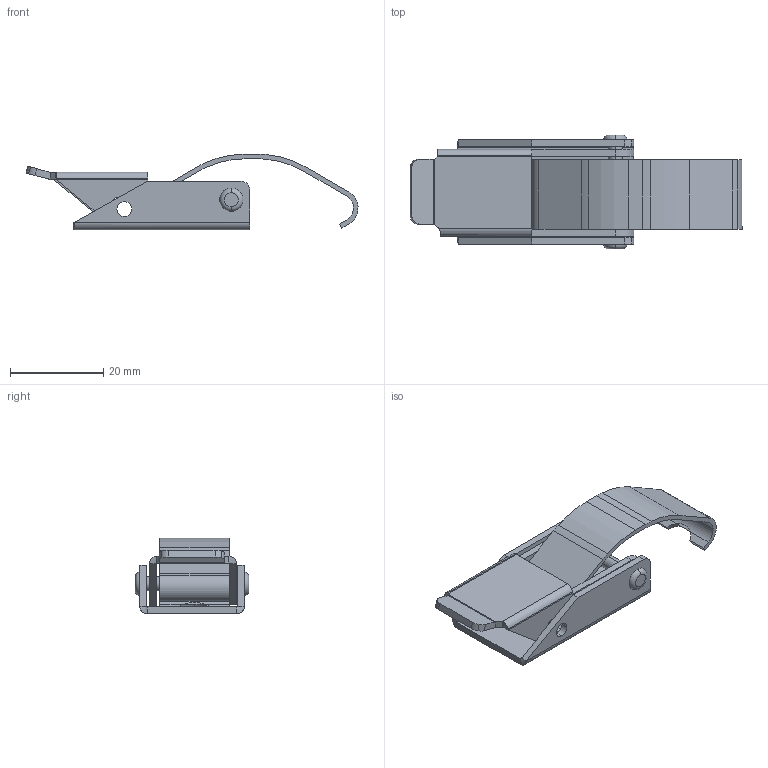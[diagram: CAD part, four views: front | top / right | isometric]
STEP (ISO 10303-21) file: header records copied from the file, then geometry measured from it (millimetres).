
FILE_DESCRIPTION((''),'2;1');
FILE_NAME('2031.stp','2023-10-06T11:35:45',(''),(''),'Mechanical Desktop 2006','Mechanical Desktop 2006',', , ');
FILE_SCHEMA(('CONFIG_CONTROL_DESIGN'));
Length unit declared in the file: millimetre
Products named in the file (6): 2031; ~~~~~~TEIL1; ~~~~~~~~~TEIL1; ~~~~~~~~TEIL1; 2031.5; TEIL1
Assembly tree (5 placements, depth 3):
  2031
    ~~~~~~TEIL1
    ~~~~~~~~~TEIL1
    ~~~~~~~~TEIL1
    2031.5
      TEIL1
Bounding box: 71.39 x 24.5 x 16.24 mm (x, y, z)
Volume: 4635.9 mm3; surface area: 7784.3 mm2
Topology: 4 solids, 4 shells, 156 faces, 424 edges, 274 vertices
Faces by surface type: cylinder 88, plane 60, torus 4, bspline 4
Entity records: 5245 total; most frequent: CARTESIAN_POINT 1030, DIRECTION 888, ORIENTED_EDGE 832, EDGE_CURVE 416, AXIS2_PLACEMENT_3D 332, VERTEX_POINT 270, VECTOR 224, LINE 224
